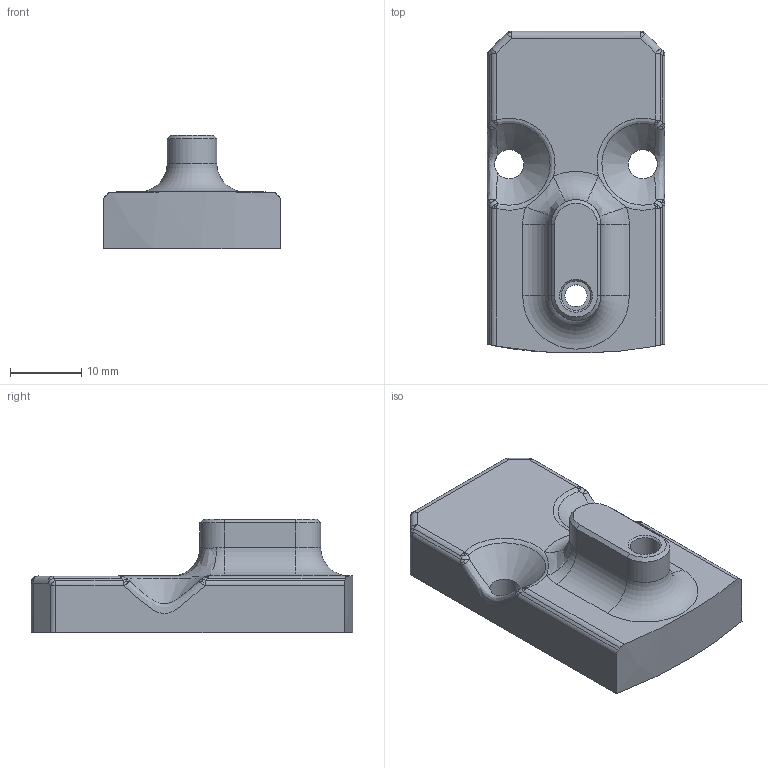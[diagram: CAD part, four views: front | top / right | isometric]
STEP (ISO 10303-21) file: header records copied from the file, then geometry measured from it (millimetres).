
FILE_DESCRIPTION(('STEP AP242 Edition 2','STEP AP242 Edition 2''CAx-IF Rec.Pracs.---Representation and Presentation of Product Manufacturing Information (PMI)---4.0---2014-10-13','STEP AP242 Edition 2''CAx-IF Rec.Pracs.---Representation and Presentation of Product Manufacturing Information (PMI)---4.0---2014-10-13''CAx-IF Rec.Pracs.---3D Tessellated Geometry---0.4---2014-09-14','STEP AP242 Edition 2''CAx-IF Rec.Pracs.---Representation and Presentation of Product Manufacturing Information (PMI)---4.0---2014-10-13''CAx-IF Rec.Pracs.---3D Tessellated Geometry---0.4---2014-09-14''2;1','STEP AP242 Edition 2''CAx-IF Rec.Pracs.---Representation and Presentation of Product Manufacturing Information (PMI)---4.0---2014-10-13''CAx-IF Rec.Pracs.---3D Tessellated Geometry---0.4---2014-09-14''2;1''CAx-IF Rec.Pracs.---User Defined Attributes---1.5---2016-08-15'),'2;1');
FILE_NAME('/vol/tmp/translate-14104053854584692003/NEO9 Upper - Charger Plate.step','2026-04-09T23:43:31',(''),(''),'ST-DEVELOPER v20','ONSHAPE BY PTC INC, 1.213',' ');
FILE_SCHEMA(('AP242_MANAGED_MODEL_BASED_3D_ENGINEERING_MIM_LF { 1 0 10303 442 3 1 4 }'));
Length unit declared in the file: metre
Products named in the file (1): Charger Plate
Bounding box: 25 x 45.2 x 16 mm (x, y, z)
Volume: 9227.4 mm3; surface area: 3714.1 mm2
Topology: 1 solids, 1 shells, 97 faces, 238 edges, 138 vertices
Faces by surface type: bspline 50, cylinder 20, plane 18, cone 5, torus 4
Full cylindrical faces by diameter (mm): 3.1 x1, 4.1 x2, 4.15 x1
Entity records: 6414 total; most frequent: CARTESIAN_POINT 4666, ORIENTED_EDGE 452, EDGE_CURVE 226, DIRECTION 177, B_SPLINE_CURVE_WITH_KNOTS 174, VERTEX_POINT 135, EDGE_LOOP 107, FACE_BOUND 107
